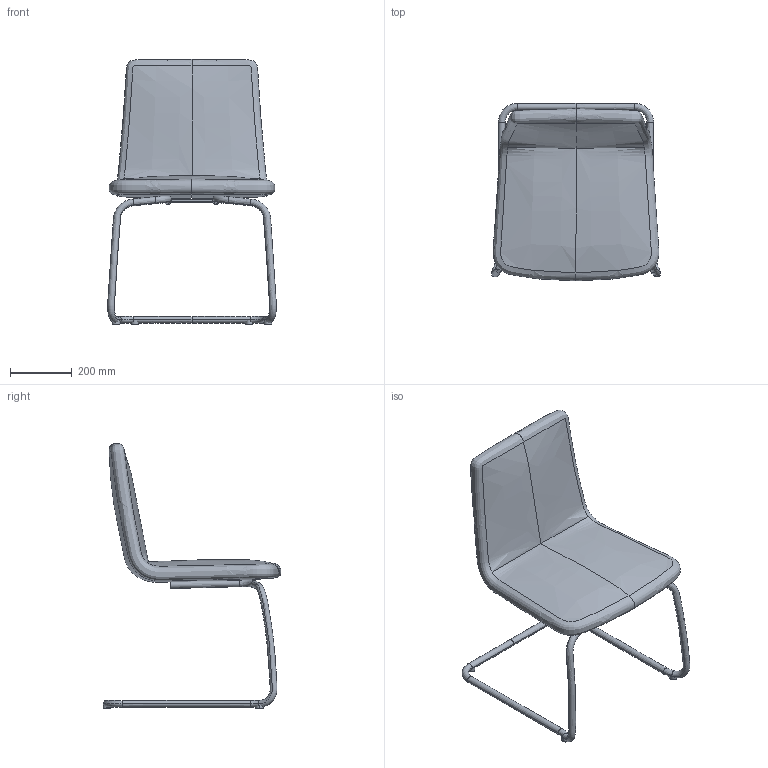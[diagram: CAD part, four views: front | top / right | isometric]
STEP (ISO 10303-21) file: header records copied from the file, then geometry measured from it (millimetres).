
FILE_DESCRIPTION(/* description */ (''),/* implementation_level */ '2;1');
FILE_NAME(/* name */ 'HAA403~1',/* time_stamp */ '2016-09-30T16:46:17+02:00',/* author */ (''),/* organization */ (''),/* preprocessor_version */ 'ST-DEVELOPER v15',/* originating_system */ '',/* authorisation */ '');
FILE_SCHEMA (('CONFIG_CONTROL_DESIGN'));
Length unit declared in the file: millimetre
Products named in the file (1): Document
Bounding box: 546.03 x 575.5 x 857.28 mm (x, y, z)
Volume: 25230486.7 mm3; surface area: 1143893.6 mm2
Topology: 7 solids, 7 shells, 64 faces, 120 edges, 73 vertices
Faces by surface type: bspline 48, plane 16
Entity records: 7067 total; most frequent: CARTESIAN_POINT 6263, ORIENTED_EDGE 234, EDGE_CURVE 117, VERTEX_POINT 67, ADVANCED_FACE 64, FACE_OUTER_BOUND 64, EDGE_LOOP 64, B_SPLINE_CURVE_WITH_KNOTS 28
